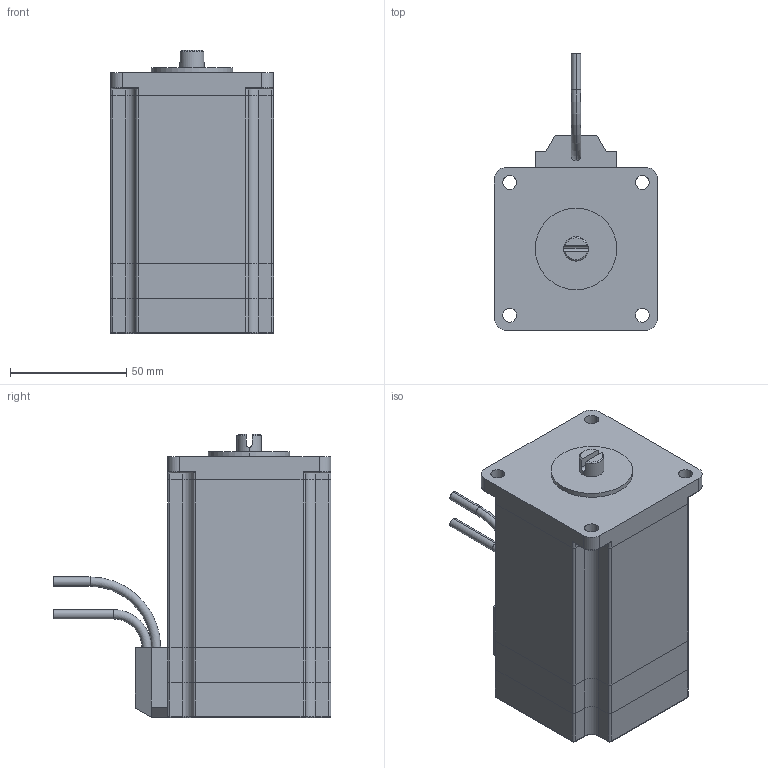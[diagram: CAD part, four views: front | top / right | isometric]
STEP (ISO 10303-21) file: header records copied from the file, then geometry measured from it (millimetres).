
FILE_DESCRIPTION (( 'STEP AP214' ), '1' );
FILE_NAME ('PBL70.STEP', '2021-09-09T13:22:23', ( '' ), ( '' ), 'SwSTEP 2.0', 'SolidWorks 2020', '' );
FILE_SCHEMA (( 'AUTOMOTIVE_DESIGN' ));
Length unit declared in the file: millimetre
Products named in the file (1): PBL70
Bounding box: 70 x 119.11 x 121.5 mm (x, y, z)
Volume: 514834.1 mm3; surface area: 43374.9 mm2
Topology: 1 solids, 1 shells, 187 faces, 427 edges, 245 vertices
Faces by surface type: cylinder 91, plane 74, torus 20, cone 2
Entity records: 7140 total; most frequent: CARTESIAN_POINT 982, DIRECTION 943, ORIENTED_EDGE 854, EDGE_CURVE 427, AXIS2_PLACEMENT_3D 346, LINE 251, VECTOR 251, VERTEX_POINT 245
